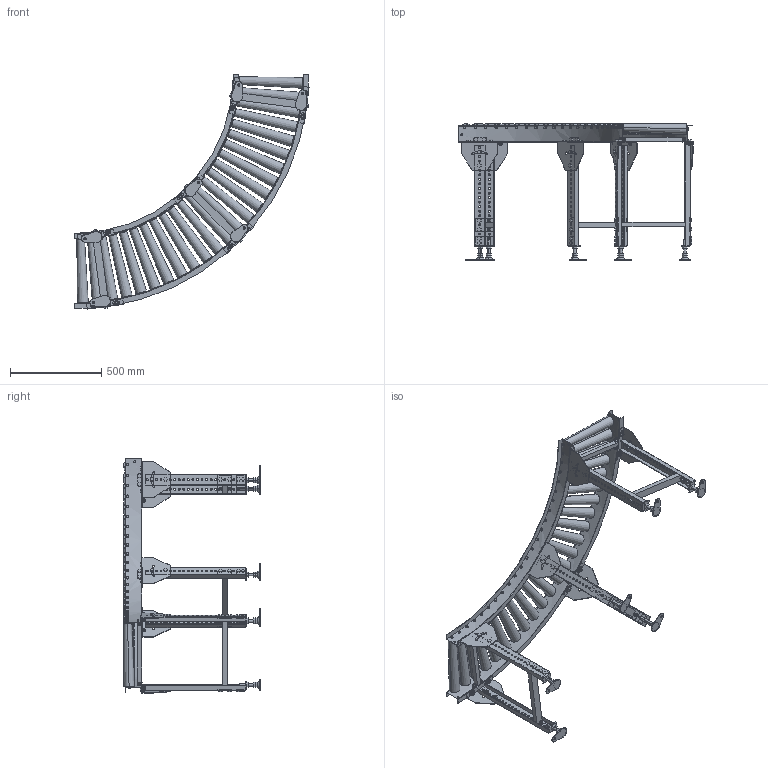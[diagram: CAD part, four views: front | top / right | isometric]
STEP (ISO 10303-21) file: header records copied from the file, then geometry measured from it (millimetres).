
FILE_DESCRIPTION (( 'STEP AP214' ), '1' );
FILE_NAME ('JRT-C9-355-75-90.STEP', '2022-09-28T23:28:39', ( '' ), ( '' ), 'SwSTEP 2.0', 'SolidWorks 2017', '' );
FILE_SCHEMA (( 'AUTOMOTIVE_DESIGN' ));
Length unit declared in the file: millimetre
Products named in the file (1): JRT-C9-355-75-90
Bounding box: 1285.56 x 750 x 1285.56 mm (x, y, z)
Volume: 22643369.9 mm3; surface area: 3969641.5 mm2
Topology: 28 solids, 58 shells, 3330 faces, 7956 edges, 5016 vertices
Faces by surface type: plane 2330, cylinder 940, cone 60
Entity records: 142292 total; most frequent: CARTESIAN_POINT 25934, DIRECTION 16946, ORIENTED_EDGE 15912, EDGE_CURVE 7956, AXIS2_PLACEMENT_3D 5945, VECTOR 5056, LINE 5056, VERTEX_POINT 5016
